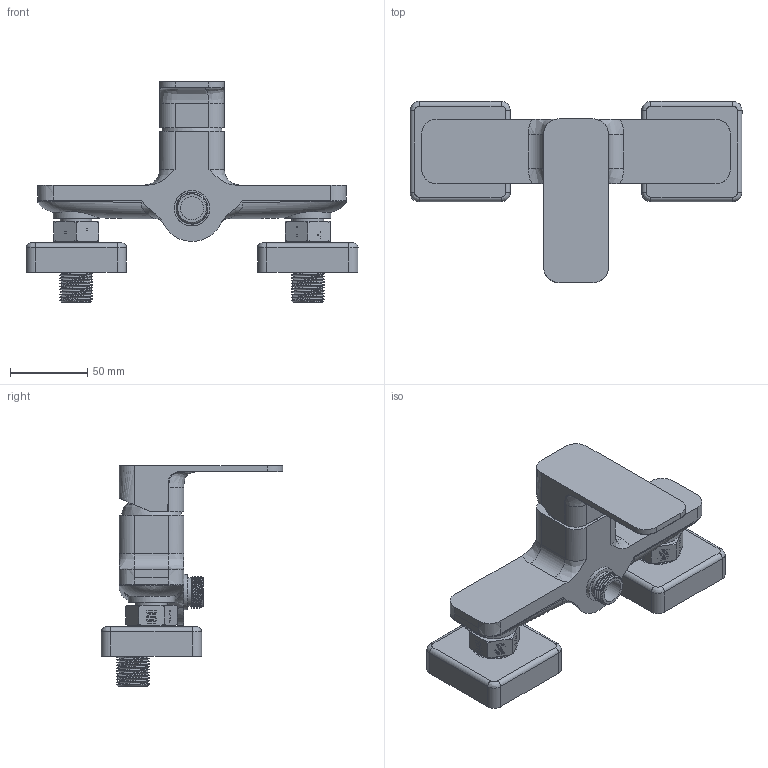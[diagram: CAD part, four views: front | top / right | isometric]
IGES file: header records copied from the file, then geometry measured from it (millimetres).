
Global section: file name: b755c803-4720-4aa6-9421-ffb77fa8b720.zip; native system: unknown; preprocessor: unknown; author: unknown; organization: unknown; date: 20191213.215915; units: millimetre
Bounding box: 215 x 117.5 x 143 mm (x, y, z)
Volume: 139838.4 mm3; surface area: 148563.9 mm2
Topology: 20 solids, 20 shells, 576 faces, 1587 edges, 1080 vertices
Faces by surface type: bspline 576
